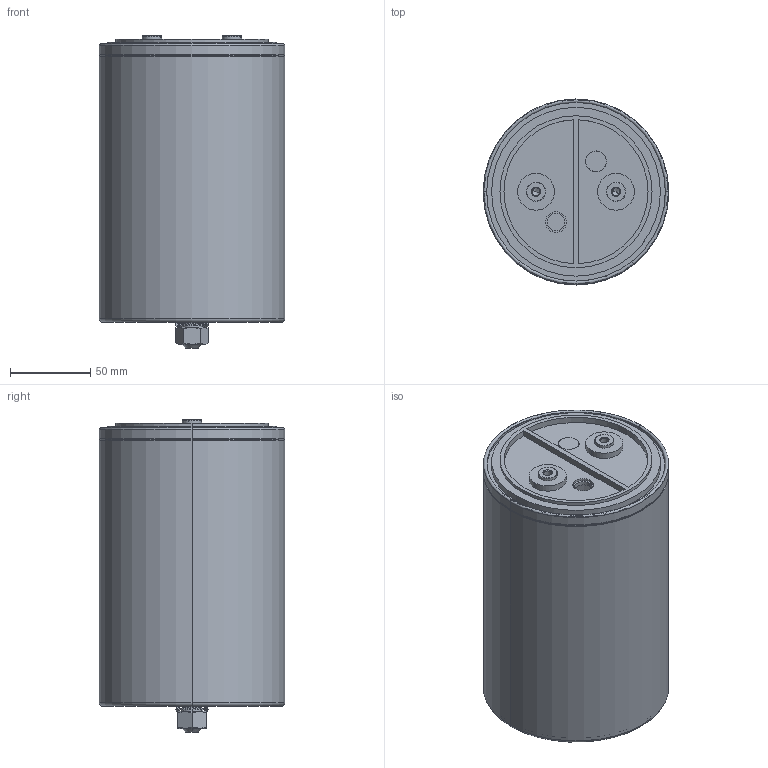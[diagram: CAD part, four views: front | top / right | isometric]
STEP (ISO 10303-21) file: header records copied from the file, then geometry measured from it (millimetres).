
FILE_DESCRIPTION (( 'STEP AP203' ), '1' );
FILE_NAME ('B25620Bx_116x173_179.STEP', '2021-07-01T04:06:16', ( '' ), ( '' ), 'SwSTEP 2.0', 'SolidWorks 2017', '' );
FILE_SCHEMA (( 'CONFIG_CONTROL_DESIGN' ));
Length unit declared in the file: millimetre
Products named in the file (1): B25620Bx_116x173_179
Bounding box: 116 x 116 x 195 mm (x, y, z)
Volume: 125717 mm3; surface area: 177989.4 mm2
Topology: 2 solids, 14 shells, 272 faces, 600 edges, 380 vertices
Faces by surface type: plane 110, cylinder 78, bspline 46, cone 20, torus 18
Entity records: 8493 total; most frequent: CARTESIAN_POINT 2593, ORIENTED_EDGE 1192, DIRECTION 1160, EDGE_CURVE 596, AXIS2_PLACEMENT_3D 433, VERTEX_POINT 380, EDGE_LOOP 302, LINE 294
